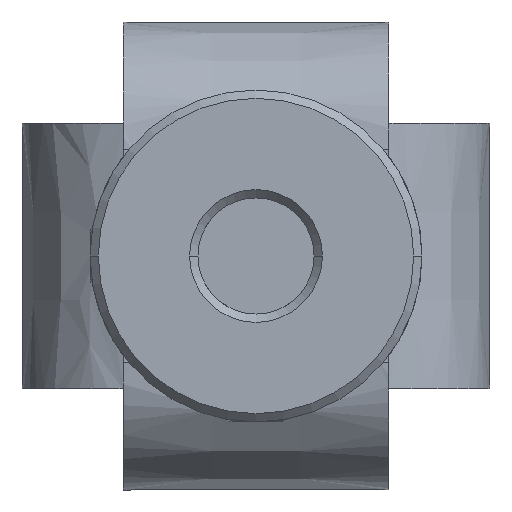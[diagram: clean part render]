
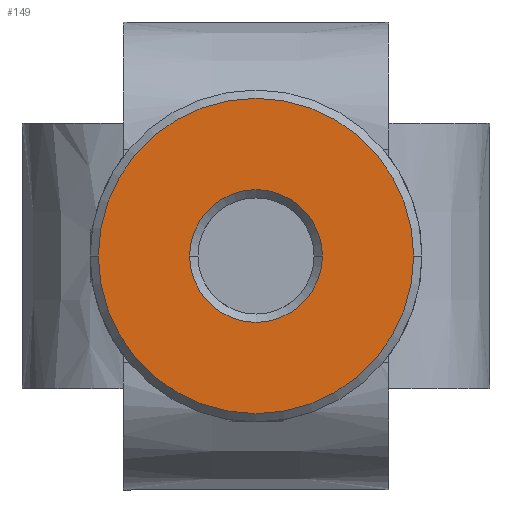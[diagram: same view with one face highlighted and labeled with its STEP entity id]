
A CAD part, front view. The second image highlights one B-rep face of the part: STEP entity #149.
In plain terms, the highlighted planar face has unit normal (0, -1, 0).
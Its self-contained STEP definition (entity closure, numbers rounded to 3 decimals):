
#149 = ADVANCED_FACE ( 'NONE', ( #464, #5533 ), #7598, .T. ) ;
#153 = VERTEX_POINT ( 'NONE', #1665 ) ;
#192 = EDGE_CURVE ( 'NONE', #5132, #5360, #5066, .T. ) ;
#216 = EDGE_CURVE ( 'NONE', #5360, #5132, #6474, .T. ) ;
#464 = FACE_BOUND ( 'NONE', #4381, .T. ) ;
#815 = CARTESIAN_POINT ( 'NONE',  ( -4., -35.24, 0. ) ) ;
#976 = DIRECTION ( 'NONE',  ( 0., -1., 0. ) ) ;
#1088 = VERTEX_POINT ( 'NONE', #1886 ) ;
#1170 = DIRECTION ( 'NONE',  ( 0., 1., 0. ) ) ;
#1659 = AXIS2_PLACEMENT_3D ( 'NONE', #7112, #6503, #4120 ) ;
#1665 = CARTESIAN_POINT ( 'NONE',  ( -9.5, -35.24, 0. ) ) ;
#1716 = DIRECTION ( 'NONE',  ( -1., 0., 0. ) ) ;
#1725 = ORIENTED_EDGE ( 'NONE', *, *, #7776, .T. ) ;
#1886 = CARTESIAN_POINT ( 'NONE',  ( 9.5, -35.24, 0. ) ) ;
#2808 = ORIENTED_EDGE ( 'NONE', *, *, #3953, .T. ) ;
#3473 = DIRECTION ( 'NONE',  ( -1., 0., 0. ) ) ;
#3491 = DIRECTION ( 'NONE',  ( 0., -1., 0. ) ) ;
#3532 = CARTESIAN_POINT ( 'NONE',  ( 0., -35.24, 0. ) ) ;
#3799 = AXIS2_PLACEMENT_3D ( 'NONE', #4151, #1170, #5979 ) ;
#3926 = ORIENTED_EDGE ( 'NONE', *, *, #216, .T. ) ;
#3953 = EDGE_CURVE ( 'NONE', #1088, #153, #7109, .T. ) ;
#4120 = DIRECTION ( 'NONE',  ( -1., 0., 0. ) ) ;
#4151 = CARTESIAN_POINT ( 'NONE',  ( 0., -35.24, 0. ) ) ;
#4161 = ORIENTED_EDGE ( 'NONE', *, *, #192, .T. ) ;
#4381 = EDGE_LOOP ( 'NONE', ( #3926, #4161 ) ) ;
#4532 = AXIS2_PLACEMENT_3D ( 'NONE', #7055, #3491, #3473 ) ;
#4681 = EDGE_LOOP ( 'NONE', ( #2808, #1725 ) ) ;
#4824 = CIRCLE ( 'NONE', #5051, 9.5 ) ;
#5051 = AXIS2_PLACEMENT_3D ( 'NONE', #7520, #976, #6307 ) ;
#5066 = CIRCLE ( 'NONE', #6723, 4. ) ;
#5132 = VERTEX_POINT ( 'NONE', #5962 ) ;
#5360 = VERTEX_POINT ( 'NONE', #815 ) ;
#5533 = FACE_OUTER_BOUND ( 'NONE', #4681, .T. ) ;
#5952 = DIRECTION ( 'NONE',  ( 0., 1., 0. ) ) ;
#5962 = CARTESIAN_POINT ( 'NONE',  ( 4., -35.24, 0. ) ) ;
#5979 = DIRECTION ( 'NONE',  ( -1., 0., 0. ) ) ;
#6307 = DIRECTION ( 'NONE',  ( -1., 0., 0. ) ) ;
#6474 = CIRCLE ( 'NONE', #3799, 4. ) ;
#6503 = DIRECTION ( 'NONE',  ( 0., -1., 0. ) ) ;
#6723 = AXIS2_PLACEMENT_3D ( 'NONE', #3532, #5952, #1716 ) ;
#7055 = CARTESIAN_POINT ( 'NONE',  ( 0., -35.24, 0. ) ) ;
#7109 = CIRCLE ( 'NONE', #4532, 9.5 ) ;
#7112 = CARTESIAN_POINT ( 'NONE',  ( 0., -35.24, 0. ) ) ;
#7520 = CARTESIAN_POINT ( 'NONE',  ( 0., -35.24, 0. ) ) ;
#7598 = PLANE ( 'NONE',  #1659 ) ;
#7776 = EDGE_CURVE ( 'NONE', #153, #1088, #4824, .T. ) ;
